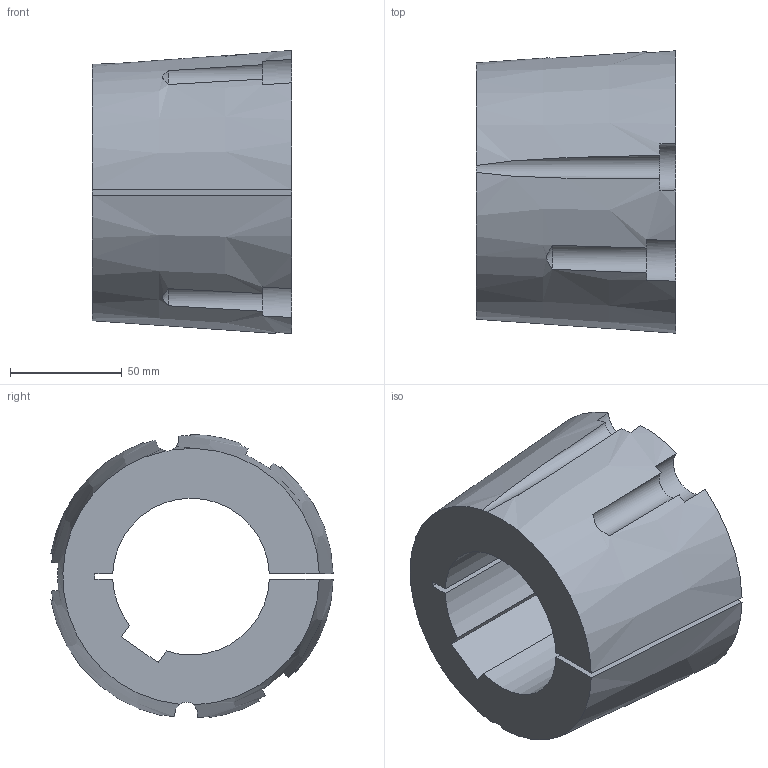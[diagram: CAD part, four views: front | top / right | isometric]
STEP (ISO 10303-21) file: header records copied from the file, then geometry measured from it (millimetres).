
FILE_DESCRIPTION( ( 'STEP AP203' ), '1' );
FILE_NAME( 'D:/export/antriebselemente/spannbuchsen_und_spannsaetze/taper-spannbuchsen_1008_bis_5050/taper-spannbuchsen_62251070Isometric_215.stp', '2018-12-11T11:11:28', ( '' ), ( '' ), ' ', 'PARTsolutions', ' ' );
FILE_SCHEMA( ( 'CONFIG_CONTROL_DESIGN' ) );
Length unit declared in the file: millimetre
Products named in the file (1): _taper-spannbuchsen_62251070
Bounding box: 89 x 126.13 x 126.46 mm (x, y, z)
Volume: 638041 mm3; surface area: 76636.5 mm2
Topology: 1 solids, 1 shells, 34 faces, 96 edges, 64 vertices
Faces by surface type: plane 15, cylinder 13, cone 6
Entity records: 1315 total; most frequent: CARTESIAN_POINT 391, ORIENTED_EDGE 192, DIRECTION 186, EDGE_CURVE 96, AXIS2_PLACEMENT_3D 80, VERTEX_POINT 64, CIRCLE 45, ADVANCED_FACE 34
